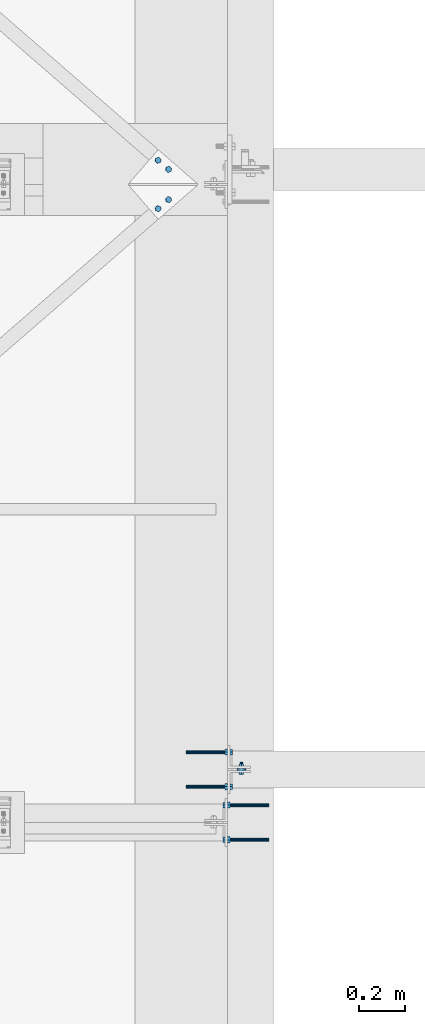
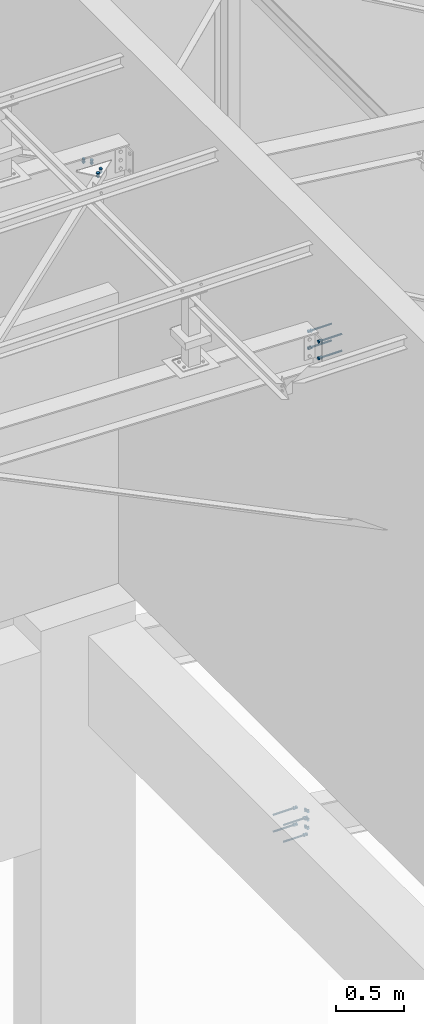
# One storey, part 278 of 3134: 7 mechanical fasteners, 6 elements without a shape of their own.
"""IFC2X3 building model written with IfcOpenShell, lengths in millimetres."""

from ifc_helpers import new_model, si_unit, frame, origin_with_axes, place, context, subcontext, project, spatial, faceted_brep, source, transform, mapped, material, type_object, element, aggregate, save


model = new_model("IFC2X3")

# Units and contexts
model_context = context("Model", 3, precision=1e-05, world=origin_with_axes())
body_context = subcontext(model_context, "Body", "Model", "MODEL_VIEW")
ifc_project = project(units=[si_unit("LENGTHUNIT", "METRE", prefix="MILLI"), si_unit("AREAUNIT", "SQUARE_METRE"), si_unit("VOLUMEUNIT", "CUBIC_METRE"), si_unit("MASSUNIT", "GRAM", prefix="KILO"), si_unit("TIMEUNIT", "SECOND"), si_unit("PLANEANGLEUNIT", "RADIAN"), si_unit("SOLIDANGLEUNIT", "STERADIAN"), si_unit("THERMODYNAMICTEMPERATUREUNIT", "DEGREE_CELSIUS"), si_unit("LUMINOUSINTENSITYUNIT", "LUMEN")], contexts=[model_context])

# Site, building, storey
site_placement = place(None, origin_with_axes())
site = spatial("IfcSite", under=ifc_project, at=site_placement, CompositionType="ELEMENT")
building_placement = place(site_placement, origin_with_axes())
building = spatial("IfcBuilding", under=site, at=building_placement, Name="Undefined", CompositionType="ELEMENT")
storey_placement = place(building_placement, origin_with_axes())
storey = spatial("IfcBuildingStorey", under=building, at=storey_placement, Name="Undefined", CompositionType="ELEMENT", Elevation=0.0)

# Assembly, mechanical fastener
assembly_1_placement = place(storey_placement, origin_with_axes())
assembly_1 = element("IfcElementAssembly", 1, at=assembly_1_placement, inside=storey, AssemblyPlace="NOTDEFINED", PredefinedType="RIGID_FRAME")
ifc_material_1 = material(Name="HILTI-HAS")
mechanical_fastener_type = type_object("IfcMechanicalFastenerType", Name="Bolt assembly")
shared_shape_1 = source(origin_with_axes(), body_context, "Body", "Brep", [
    faceted_brep([(13.856406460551, -20.56, 0.0), (6.92820323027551, -20.56, 12.0), (-6.92820323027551, -20.56, 12.0), (-13.856406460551, -20.56, 1.69692038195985e-15), (-6.92820323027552, -20.56, -12.0), (6.9282032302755, -20.56, -12.0), (6.9282032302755, -10.0, -12.0), (-6.92820323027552, -10.0, -12.0), (-13.856406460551, -10.0, 1.69692038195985e-15), (-6.92820323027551, -10.0, 12.0), (6.92820323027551, -10.0, 12.0), (13.856406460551, -10.0, 0.0), (8.0, -10.0, 0.0), (6.92820323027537, -10.0, 4.00000000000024), (3.99999999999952, -10.0, 6.92820323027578), (-8.29068785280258e-13, -10.0, 8.0), (-4.00000000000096, -10.0, 6.92820323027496), (-6.9282032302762, -10.0, 3.99999999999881), (-8.0, -10.0, -1.65813757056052e-12), (-6.92820323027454, -10.0, -4.00000000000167), (-3.99999999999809, -10.0, -6.92820323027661), (2.47832457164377e-12, -10.0, -8.0), (4.00000000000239, -10.0, -6.92820323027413), (6.92820323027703, -10.0, -3.99999999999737), (6.92820323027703, 180.0, -3.99999999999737), (4.00000000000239, 180.0, -6.92820323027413), (2.47832457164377e-12, 180.0, -8.0), (-3.99999999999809, 180.0, -6.92820323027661), (-6.92820323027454, 180.0, -4.00000000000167), (-8.0, 180.0, -1.65813757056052e-12), (-6.9282032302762, 180.0, 3.99999999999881), (-4.00000000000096, 180.0, 6.92820323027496), (-8.29068785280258e-13, 180.0, 8.0), (3.99999999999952, 180.0, 6.92820323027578), (6.92820323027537, 180.0, 4.00000000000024), (8.0, 180.0, 0.0), (15.3344231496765, 7.105427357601e-15, 0.0), (7.66721157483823, 7.105427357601e-15, 13.28), (-7.66721157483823, 7.105427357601e-15, 13.28), (-15.3344231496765, 7.105427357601e-15, 1.87792522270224e-15), (-7.66721157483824, 7.105427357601e-15, -13.28), (7.66721157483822, 7.105427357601e-15, -13.28), (7.66721157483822, 10.56, -13.28), (-7.66721157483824, 10.56, -13.28), (-15.3344231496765, 10.56, 1.87792522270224e-15), (-7.66721157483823, 10.56, 13.28), (7.66721157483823, 10.56, 13.28), (15.3344231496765, 10.56, 0.0)], [[[0, 1, 2, 3, 4, 5]], [[6, 7, 8, 9, 10, 11]], [[0, 11, 10, 1]], [[1, 10, 9, 2]], [[2, 9, 8, 3]], [[3, 8, 7, 4]], [[4, 7, 6, 5]], [[5, 6, 11, 0]], [[12, 13, 14, 15, 16, 17, 18, 19, 20, 21, 22, 23]], [[24, 25, 26, 27, 28, 29, 30, 31, 32, 33, 34, 35]], [[12, 35, 34, 13]], [[13, 34, 33, 14]], [[14, 33, 32, 15]], [[15, 32, 31, 16]], [[16, 31, 30, 17]], [[17, 30, 29, 18]], [[18, 29, 28, 19]], [[19, 28, 27, 20]], [[20, 27, 26, 21]], [[21, 26, 25, 22]], [[22, 25, 24, 23]], [[23, 24, 35, 12]], [[36, 37, 38, 39, 40, 41]], [[42, 43, 44, 45, 46, 47]], [[36, 47, 46, 37]], [[37, 46, 45, 38]], [[38, 45, 44, 39]], [[39, 44, 43, 40]], [[40, 43, 42, 41]], [[41, 42, 47, 36]]]),
    faceted_brep([(9.0, -10.0, 0.0), (7.79422863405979, -10.0, 4.50000000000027), (4.49999999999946, -10.0, 7.79422863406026), (-9.3270238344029e-13, -10.0, 9.0), (-4.50000000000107, -10.0, 7.79422863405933), (-7.79422863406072, -10.0, 4.49999999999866), (-9.0, -10.0, -1.86540476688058e-12), (-7.79422863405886, -10.0, -4.50000000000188), (-4.49999999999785, -10.0, -7.79422863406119), (2.78811514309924e-12, -10.0, -9.0), (4.50000000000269, -10.0, -7.7942286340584), (7.79422863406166, -10.0, -4.49999999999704), (7.79422863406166, 0.100000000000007, -4.49999999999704), (4.50000000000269, 0.100000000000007, -7.7942286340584), (2.78811514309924e-12, 0.100000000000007, -9.0), (-4.49999999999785, 0.100000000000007, -7.79422863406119), (-7.79422863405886, 0.100000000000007, -4.50000000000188), (-9.0, 0.100000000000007, -1.86540476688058e-12), (-7.79422863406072, 0.100000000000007, 4.49999999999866), (-4.50000000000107, 0.100000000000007, 7.79422863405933), (-9.3270238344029e-13, 0.100000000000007, 9.0), (4.49999999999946, 0.100000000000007, 7.79422863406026), (7.79422863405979, 0.100000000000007, 4.50000000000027), (9.0, 0.100000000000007, 0.0)], [[[0, 1, 2, 3, 4, 5, 6, 7, 8, 9, 10, 11]], [[12, 13, 14, 15, 16, 17, 18, 19, 20, 21, 22, 23]], [[0, 23, 22, 1]], [[1, 22, 21, 2]], [[2, 21, 20, 3]], [[3, 20, 19, 4]], [[4, 19, 18, 5]], [[5, 18, 17, 6]], [[6, 17, 16, 7]], [[7, 16, 15, 8]], [[8, 15, 14, 9]], [[9, 14, 13, 10]], [[10, 13, 12, 11]], [[11, 12, 23, 0]]]),
])
mechanical_fastener_1_placement = place(assembly_1_placement, frame((32724.9999999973, 58374.9999999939, 5696.01703557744), z_axis=(0.0, 1.0, 0.0), x_axis=(0.0, 0.0, -1.0)))
mechanical_fastener_1 = element("IfcMechanicalFastener", 2, at=mechanical_fastener_1_placement, type_object=mechanical_fastener_type, material=ifc_material_1, Name="Bolt assembly", NominalDiameter=16.0, NominalLength=190.0, context=body_context, shape_type="MappedRepresentation", body=[
    mapped(shared_shape_1, transform((0.0, 0.0, 0.0))),
    mapped(shared_shape_1, transform((150.0, 0.0, 0.0))),
])
aggregate(assembly_1, [mechanical_fastener_1])

assembly_2_placement = place(storey_placement, origin_with_axes())
assembly_2 = element("IfcElementAssembly", 3, at=assembly_2_placement, inside=storey, AssemblyPlace="NOTDEFINED", PredefinedType="RIGID_FRAME")
mechanical_fastener_2_placement = place(assembly_2_placement, frame((32724.999999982, 58524.9999999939, 5696.01703557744), z_axis=(0.0, 1.0, 0.0), x_axis=(0.0, 0.0, -1.0)))
mechanical_fastener_2 = element("IfcMechanicalFastener", 4, at=mechanical_fastener_2_placement, type_object=mechanical_fastener_type, material=ifc_material_1, Name="Bolt assembly", NominalDiameter=16.0, NominalLength=190.0, context=body_context, shape_type="MappedRepresentation", body=[
    mapped(shared_shape_1, transform((0.0, 0.0, 0.0))),
    mapped(shared_shape_1, transform((150.0, 0.0, 0.0))),
])
aggregate(assembly_2, [mechanical_fastener_2])

assembly_3_placement = place(storey_placement, origin_with_axes())
assembly_3 = element("IfcElementAssembly", 5, at=assembly_3_placement, inside=storey, AssemblyPlace="NOTDEFINED", PredefinedType="RIGID_FRAME")
mechanical_fastener_3_placement = place(assembly_3_placement, frame((32725.0, 58145.0, 10096.4159140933), z_axis=(0.0, -1.0, 0.0), x_axis=(0.0, 0.0, -1.0)))
mechanical_fastener_3 = element("IfcMechanicalFastener", 6, at=mechanical_fastener_3_placement, type_object=mechanical_fastener_type, material=ifc_material_1, Name="Bolt assembly", NominalDiameter=16.0, NominalLength=190.0, context=body_context, shape_type="MappedRepresentation", body=[
    mapped(shared_shape_1, transform((0.0, 0.0, 0.0))),
    mapped(shared_shape_1, transform((150.0, 0.0, 0.0))),
])
aggregate(assembly_3, [mechanical_fastener_3])

assembly_4_placement = place(storey_placement, origin_with_axes())
assembly_4 = element("IfcElementAssembly", 7, at=assembly_4_placement, inside=storey, AssemblyPlace="NOTDEFINED", PredefinedType="RIGID_FRAME")
mechanical_fastener_4_placement = place(assembly_4_placement, frame((32725.0, 58295.0, 10096.4159140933), z_axis=(0.0, -1.0, 0.0), x_axis=(0.0, 0.0, -1.0)))
mechanical_fastener_4 = element("IfcMechanicalFastener", 8, at=mechanical_fastener_4_placement, type_object=mechanical_fastener_type, material=ifc_material_1, Name="Bolt assembly", NominalDiameter=16.0, NominalLength=190.0, context=body_context, shape_type="MappedRepresentation", body=[
    mapped(shared_shape_1, transform((0.0, 0.0, 0.0))),
    mapped(shared_shape_1, transform((150.0, 0.0, 0.0))),
])
aggregate(assembly_4, [mechanical_fastener_4])

assembly_5_placement = place(storey_placement, origin_with_axes())
assembly_5 = element("IfcElementAssembly", 9, at=assembly_5_placement, inside=storey, Name="IPE330", AssemblyPlace="NOTDEFINED", PredefinedType="RIGID_FRAME")
ifc_material_2 = material(Name="8.8")
shared_shape_2 = source(origin_with_axes(), body_context, "Body", "Brep", [
    faceted_brep([(10.9696551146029, -21.75, 0.0), (5.48482755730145, -21.75, 9.5), (-5.48482755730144, -21.75, 9.5), (-10.9696551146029, -21.75, 1.34339530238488e-15), (-5.48482755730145, -21.75, -9.5), (5.48482755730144, -21.75, -9.50000000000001), (5.48482755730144, -13.75, -9.50000000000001), (-5.48482755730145, -13.75, -9.5), (-10.9696551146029, -13.75, 1.34339530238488e-15), (-5.48482755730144, -13.75, 9.5), (5.48482755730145, -13.75, 9.5), (10.9696551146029, -13.75, 0.0), (6.0, -13.75, 0.0), (5.19615242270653, -13.75, 3.00000000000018), (2.99999999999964, -13.75, 5.19615242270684), (-6.21801588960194e-13, -13.75, 6.0), (-3.00000000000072, -13.75, 5.19615242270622), (-5.19615242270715, -13.75, 2.9999999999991), (-6.0, -13.75, -1.24360317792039e-12), (-5.19615242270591, -13.75, -3.00000000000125), (-2.99999999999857, -13.75, -5.19615242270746), (1.85874342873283e-12, -13.75, -6.0), (3.00000000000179, -13.75, -5.1961524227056), (5.19615242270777, -13.75, -2.99999999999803), (5.19615242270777, 31.25, -2.99999999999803), (3.00000000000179, 31.25, -5.1961524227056), (1.85874342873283e-12, 31.25, -6.0), (-2.99999999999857, 31.25, -5.19615242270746), (-5.19615242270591, 31.25, -3.00000000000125), (-6.0, 31.25, -1.24360317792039e-12), (-5.19615242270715, 31.25, 2.9999999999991), (-3.00000000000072, 31.25, 5.19615242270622), (-6.21801588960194e-13, 31.25, 6.0), (2.99999999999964, 31.25, 5.19615242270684), (5.19615242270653, 31.25, 3.00000000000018), (6.0, 31.25, 0.0), (10.9696551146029, 13.7500000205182, 0.0), (5.48482755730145, 13.7500000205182, 9.5), (-5.48482755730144, 13.7500000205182, 9.5), (-10.9696551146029, 13.7500000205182, 1.34339530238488e-15), (-5.48482755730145, 13.7500000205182, -9.5), (5.48482755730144, 13.7500000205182, -9.50000000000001), (5.48482755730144, 23.7500000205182, -9.50000000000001), (-5.48482755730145, 23.7500000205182, -9.5), (-10.9696551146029, 23.7500000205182, 1.34339530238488e-15), (-5.48482755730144, 23.7500000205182, 9.5), (5.48482755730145, 23.7500000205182, 9.5), (10.9696551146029, 23.7500000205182, 0.0)], [[[0, 1, 2, 3, 4, 5]], [[6, 7, 8, 9, 10, 11]], [[0, 11, 10, 1]], [[1, 10, 9, 2]], [[2, 9, 8, 3]], [[3, 8, 7, 4]], [[4, 7, 6, 5]], [[5, 6, 11, 0]], [[12, 13, 14, 15, 16, 17, 18, 19, 20, 21, 22, 23]], [[24, 25, 26, 27, 28, 29, 30, 31, 32, 33, 34, 35]], [[12, 35, 34, 13]], [[13, 34, 33, 14]], [[14, 33, 32, 15]], [[15, 32, 31, 16]], [[16, 31, 30, 17]], [[17, 30, 29, 18]], [[18, 29, 28, 19]], [[19, 28, 27, 20]], [[20, 27, 26, 21]], [[21, 26, 25, 22]], [[22, 25, 24, 23]], [[23, 24, 35, 12]], [[36, 37, 38, 39, 40, 41]], [[42, 43, 44, 45, 46, 47]], [[36, 47, 46, 37]], [[37, 46, 45, 38]], [[38, 45, 44, 39]], [[39, 44, 43, 40]], [[40, 43, 42, 41]], [[41, 42, 47, 36]]]),
    faceted_brep([(7.0, -13.65, 0.0), (6.06217782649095, -13.65, 3.50000000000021), (3.49999999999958, -13.65, 6.06217782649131), (-7.25435187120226e-13, -13.65, 7.0), (-3.50000000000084, -13.65, 6.06217782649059), (-6.06217782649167, -13.65, 3.49999999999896), (-7.0, -13.65, -1.45087037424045e-12), (-6.06217782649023, -13.65, -3.50000000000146), (-3.49999999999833, -13.65, -6.06217782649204), (2.1685340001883e-12, -13.65, -7.0), (3.50000000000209, -13.65, -6.06217782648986), (6.0621778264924, -13.65, -3.4999999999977), (6.0621778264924, -3.65, -3.4999999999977), (3.50000000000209, -3.65, -6.06217782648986), (2.1685340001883e-12, -3.65, -7.0), (-3.49999999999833, -3.65, -6.06217782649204), (-6.06217782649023, -3.65, -3.50000000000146), (-7.0, -3.65, -1.45087037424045e-12), (-6.06217782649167, -3.65, 3.49999999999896), (-3.50000000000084, -3.65, 6.06217782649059), (-7.25435187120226e-13, -3.65, 7.0), (3.49999999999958, -3.65, 6.06217782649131), (6.06217782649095, -3.65, 3.50000000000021), (7.0, -3.65, 0.0), (7.0, -3.75, 13.0), (6.46715672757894, -3.75, 15.6787840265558), (4.94974746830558, -3.75, 17.9497474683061), (-7.25435187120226e-13, -3.75, 20.0), (-3.50000000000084, -3.75, 19.0621778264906), (-6.06217782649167, -3.75, 16.499999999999), (-7.0, -3.75, 12.9999999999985), (-7.0, -3.75, -13.0000000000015), (-6.06217782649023, -3.75, -16.5000000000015), (-3.49999999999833, -3.75, -19.062177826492), (2.1685340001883e-12, -3.75, -20.0), (3.50000000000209, -3.75, -19.0621778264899), (6.0621778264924, -3.75, -16.4999999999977), (7.0, -3.75, -12.9999999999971), (7.0, 3.75, -12.9999999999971), (6.0621778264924, 3.75, -16.4999999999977), (3.50000000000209, 3.75, -19.0621778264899), (2.1685340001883e-12, 3.75, -20.0), (-3.49999999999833, 3.75, -19.062177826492), (-6.06217782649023, 3.75, -16.5000000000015), (-7.0, 3.75, -13.0000000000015), (-7.0, 3.75, 12.9999999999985), (-6.06217782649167, 3.75, 16.499999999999), (-3.50000000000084, 3.75, 19.0621778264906), (-7.25435187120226e-13, 3.75, 20.0), (2.67878402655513, 3.75, 19.4671567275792), (4.94974746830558, 3.75, 17.9497474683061), (6.46715672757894, 3.75, 15.6787840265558), (7.0, 3.75, 13.0), (2.67878402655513, -3.75, 19.4671567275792), (7.0, 3.65000002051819, 0.0), (6.06217782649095, 3.65000002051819, 3.50000000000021), (3.49999999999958, 3.65000002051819, 6.06217782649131), (-7.25435187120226e-13, 3.65000002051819, 7.0), (-3.50000000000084, 3.65000002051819, 6.06217782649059), (-6.06217782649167, 3.65000002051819, 3.49999999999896), (-7.0, 3.65000002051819, -1.45087037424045e-12), (-6.06217782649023, 3.65000002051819, -3.50000000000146), (-3.49999999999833, 3.65000002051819, -6.06217782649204), (2.1685340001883e-12, 3.65000002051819, -7.0), (3.50000000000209, 3.65000002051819, -6.06217782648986), (6.0621778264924, 3.65000002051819, -3.4999999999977), (6.0621778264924, 13.7500000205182, -3.4999999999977), (3.50000000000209, 13.7500000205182, -6.06217782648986), (2.1685340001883e-12, 13.7500000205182, -7.0), (-3.49999999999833, 13.7500000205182, -6.06217782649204), (-6.06217782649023, 13.7500000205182, -3.50000000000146), (-7.0, 13.7500000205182, -1.45087037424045e-12), (-6.06217782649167, 13.7500000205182, 3.49999999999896), (-3.50000000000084, 13.7500000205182, 6.06217782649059), (-7.25435187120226e-13, 13.7500000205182, 7.0), (3.49999999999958, 13.7500000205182, 6.06217782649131), (6.06217782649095, 13.7500000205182, 3.50000000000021), (7.0, 13.7500000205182, 0.0)], [[[0, 1, 2, 3, 4, 5, 6, 7, 8, 9, 10, 11]], [[12, 13, 14, 15, 16, 17, 18, 19, 20, 21, 22, 23]], [[0, 23, 22, 1]], [[1, 22, 21, 2]], [[2, 21, 20, 3]], [[3, 20, 19, 4]], [[4, 19, 18, 5]], [[5, 18, 17, 6]], [[6, 17, 16, 7]], [[7, 16, 15, 8]], [[8, 15, 14, 9]], [[9, 14, 13, 10]], [[10, 13, 12, 11]], [[11, 12, 23, 0]], [[24, 25, 26, 27, 28, 29, 30, 31, 32, 33, 34, 35, 36, 37]], [[38, 39, 40, 41, 42, 43, 44, 45, 46, 47, 48, 49, 50, 51, 52]], [[24, 52, 51, 25]], [[25, 51, 50, 26]], [[26, 50, 49, 53]], [[53, 49, 48, 27]], [[27, 48, 47, 28]], [[28, 47, 46, 29]], [[29, 46, 45, 30]], [[30, 45, 44, 31]], [[31, 44, 43, 32]], [[32, 43, 42, 33]], [[33, 42, 41, 34]], [[34, 41, 40, 35]], [[35, 40, 39, 36]], [[36, 39, 38, 37]], [[37, 38, 52, 24]], [[54, 55, 56, 57, 58, 59, 60, 61, 62, 63, 64, 65]], [[66, 67, 68, 69, 70, 71, 72, 73, 74, 75, 76, 77]], [[54, 77, 76, 55]], [[55, 76, 75, 56]], [[56, 75, 74, 57]], [[57, 74, 73, 58]], [[58, 73, 72, 59]], [[59, 72, 71, 60]], [[60, 71, 70, 61]], [[61, 70, 69, 62]], [[62, 69, 68, 63]], [[63, 68, 67, 64]], [[64, 67, 66, 65]], [[65, 66, 77, 54]]]),
])
mechanical_fastener_5_placement = place(assembly_5_placement, frame((32785.0, 58450.0, 5696.01703557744), z_axis=(1.0, 0.0, 0.0), x_axis=(0.0, 0.0, -1.0)))
mechanical_fastener_5 = element("IfcMechanicalFastener", 10, at=mechanical_fastener_5_placement, type_object=mechanical_fastener_type, material=ifc_material_2, Name="Bolt assembly", NominalDiameter=12.0, NominalLength=45.0, context=body_context, shape_type="MappedRepresentation", body=[
    mapped(shared_shape_2, transform((0.0, 0.0, 0.0))),
    mapped(shared_shape_2, transform((75.0, 0.0, 0.0))),
    mapped(shared_shape_2, transform((150.0, 0.0, 0.0))),
])
aggregate(assembly_5, [mechanical_fastener_5])

# Assembly, mechanical fasteners
assembly_6_placement = place(storey_placement, origin_with_axes())
assembly_6 = element("IfcElementAssembly", 11, at=assembly_6_placement, inside=storey, Name="IPE330", AssemblyPlace="NOTDEFINED", PredefinedType="RIGID_FRAME")
shared_shape_3 = source(origin_with_axes(), body_context, "Body", "Brep", [
    faceted_brep([(13.856406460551, -14.0, 0.0), (6.92820323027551, -14.0, 12.0), (-6.92820323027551, -14.0, 12.0), (-13.856406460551, -14.0, 1.69692038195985e-15), (-6.92820323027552, -14.0, -12.0), (6.9282032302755, -14.0, -12.0), (6.9282032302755, -4.00000145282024, -12.0), (-6.92820323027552, -4.00000145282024, -12.0), (-13.856406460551, -4.00000145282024, 1.69692038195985e-15), (-6.92820323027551, -4.00000145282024, 12.0), (6.92820323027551, -4.00000145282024, 12.0), (13.856406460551, -4.00000145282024, 0.0), (8.0, -4.00000145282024, 0.0), (6.92820323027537, -4.00000145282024, 4.00000000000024), (3.99999999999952, -4.00000145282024, 6.92820323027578), (-8.29068785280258e-13, -4.00000145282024, 8.0), (-4.00000000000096, -4.00000145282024, 6.92820323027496), (-6.9282032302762, -4.00000145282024, 3.99999999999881), (-8.0, -4.00000145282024, -1.65813757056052e-12), (-6.92820323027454, -4.00000145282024, -4.00000000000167), (-3.99999999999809, -4.00000145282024, -6.92820323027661), (2.47832457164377e-12, -4.00000145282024, -8.0), (4.00000000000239, -4.00000145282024, -6.92820323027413), (6.92820323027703, -4.00000145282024, -3.99999999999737), (6.92820323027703, 31.0, -3.99999999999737), (4.00000000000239, 31.0, -6.92820323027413), (2.47832457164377e-12, 31.0, -8.0), (-3.99999999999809, 31.0, -6.92820323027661), (-6.92820323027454, 31.0, -4.00000000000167), (-8.0, 31.0, -1.65813757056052e-12), (-6.9282032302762, 31.0, 3.99999999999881), (-4.00000000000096, 31.0, 6.92820323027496), (-8.29068785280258e-13, 31.0, 8.0), (3.99999999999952, 31.0, 6.92820323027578), (6.92820323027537, 31.0, 4.00000000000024), (8.0, 31.0, 0.0), (13.856406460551, 9.99999995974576, 0.0), (6.92820323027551, 9.99999995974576, 12.0), (-6.92820323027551, 9.99999995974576, 12.0), (-13.856406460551, 9.99999995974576, 1.69692038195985e-15), (-6.92820323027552, 9.99999995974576, -12.0), (6.9282032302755, 9.99999995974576, -12.0), (6.9282032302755, 22.9999913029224, -12.0), (-6.92820323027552, 22.9999913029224, -12.0), (-13.856406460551, 22.9999913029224, 1.69692038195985e-15), (-6.92820323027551, 22.9999913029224, 12.0), (6.92820323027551, 22.9999913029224, 12.0), (13.856406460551, 22.9999913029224, 0.0)], [[[0, 1, 2, 3, 4, 5]], [[6, 7, 8, 9, 10, 11]], [[0, 11, 10, 1]], [[1, 10, 9, 2]], [[2, 9, 8, 3]], [[3, 8, 7, 4]], [[4, 7, 6, 5]], [[5, 6, 11, 0]], [[12, 13, 14, 15, 16, 17, 18, 19, 20, 21, 22, 23]], [[24, 25, 26, 27, 28, 29, 30, 31, 32, 33, 34, 35]], [[12, 35, 34, 13]], [[13, 34, 33, 14]], [[14, 33, 32, 15]], [[15, 32, 31, 16]], [[16, 31, 30, 17]], [[17, 30, 29, 18]], [[18, 29, 28, 19]], [[19, 28, 27, 20]], [[20, 27, 26, 21]], [[21, 26, 25, 22]], [[22, 25, 24, 23]], [[23, 24, 35, 12]], [[36, 37, 38, 39, 40, 41]], [[42, 43, 44, 45, 46, 47]], [[36, 47, 46, 37]], [[37, 46, 45, 38]], [[38, 45, 44, 39]], [[39, 44, 43, 40]], [[40, 43, 42, 41]], [[41, 42, 47, 36]]]),
    faceted_brep([(9.0, 3.9, 0.0), (7.79422863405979, 3.9, 4.50000000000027), (4.49999999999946, 3.9, 7.79422863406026), (-9.3270238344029e-13, 3.9, 9.0), (-4.50000000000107, 3.9, 7.79422863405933), (-7.79422863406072, 3.9, 4.49999999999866), (-9.0, 3.9, -1.86540476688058e-12), (-7.79422863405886, 3.9, -4.50000000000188), (-4.49999999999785, 3.9, -7.79422863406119), (2.78811514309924e-12, 3.9, -9.0), (4.50000000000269, 3.9, -7.7942286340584), (7.79422863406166, 3.9, -4.49999999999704), (7.79422863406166, 9.99999995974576, -4.49999999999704), (4.50000000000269, 9.99999995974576, -7.7942286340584), (2.78811514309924e-12, 9.99999995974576, -9.0), (-4.49999999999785, 9.99999995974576, -7.79422863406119), (-7.79422863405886, 9.99999995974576, -4.50000000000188), (-9.0, 9.99999995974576, -1.86540476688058e-12), (-7.79422863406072, 9.99999995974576, 4.49999999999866), (-4.50000000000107, 9.99999995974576, 7.79422863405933), (-9.3270238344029e-13, 9.99999995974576, 9.0), (4.49999999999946, 9.99999995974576, 7.79422863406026), (7.79422863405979, 9.99999995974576, 4.50000000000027), (9.0, 9.99999995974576, 0.0), (9.0, -3.9, 0.0), (7.79422863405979, -3.9, 4.50000000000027), (4.49999999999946, -3.9, 7.79422863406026), (-9.3270238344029e-13, -3.9, 9.0), (-4.50000000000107, -3.9, 7.79422863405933), (-7.79422863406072, -3.9, 4.49999999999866), (-9.0, -3.9, -1.86540476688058e-12), (-7.79422863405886, -3.9, -4.50000000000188), (-4.49999999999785, -3.9, -7.79422863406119), (2.78811514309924e-12, -3.9, -9.0), (4.50000000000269, -3.9, -7.7942286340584), (7.79422863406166, -3.9, -4.49999999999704), (7.79422863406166, 4.09999854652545, -4.49999999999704), (4.50000000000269, 4.09999854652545, -7.7942286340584), (2.78811514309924e-12, 4.09999854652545, -9.0), (-4.49999999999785, 4.09999854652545, -7.79422863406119), (-7.79422863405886, 4.09999854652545, -4.50000000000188), (-9.0, 4.09999854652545, -1.86540476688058e-12), (-7.79422863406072, 4.09999854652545, 4.49999999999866), (-4.50000000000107, 4.09999854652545, 7.79422863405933), (-9.3270238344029e-13, 4.09999854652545, 9.0), (4.49999999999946, 4.09999854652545, 7.79422863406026), (7.79422863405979, 4.09999854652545, 4.50000000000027), (9.0, 4.09999854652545, 0.0)], [[[0, 1, 2, 3, 4, 5, 6, 7, 8, 9, 10, 11]], [[12, 13, 14, 15, 16, 17, 18, 19, 20, 21, 22, 23]], [[0, 23, 22, 1]], [[1, 22, 21, 2]], [[2, 21, 20, 3]], [[3, 20, 19, 4]], [[4, 19, 18, 5]], [[5, 18, 17, 6]], [[6, 17, 16, 7]], [[7, 16, 15, 8]], [[8, 15, 14, 9]], [[9, 14, 13, 10]], [[10, 13, 12, 11]], [[11, 12, 23, 0]], [[24, 25, 26, 27, 28, 29, 30, 31, 32, 33, 34, 35]], [[36, 37, 38, 39, 40, 41, 42, 43, 44, 45, 46, 47]], [[24, 47, 46, 25]], [[25, 46, 45, 26]], [[26, 45, 44, 27]], [[27, 44, 43, 28]], [[28, 43, 42, 29]], [[29, 42, 41, 30]], [[30, 41, 40, 31]], [[31, 40, 39, 32]], [[32, 39, 38, 33]], [[33, 38, 37, 34]], [[34, 37, 36, 35]], [[35, 36, 47, 24]]]),
])
mechanical_fastener_6_placement = place(assembly_6_placement, frame((32424.2213762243, 60880.1149029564, 10033.8822758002), z_axis=(-0.655215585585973, 0.755168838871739, 0.0203116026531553), x_axis=(0.754806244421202, 0.655530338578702, -0.0233989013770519)))
mechanical_fastener_6 = element("IfcMechanicalFastener", 12, at=mechanical_fastener_6_placement, type_object=mechanical_fastener_type, material=ifc_material_2, Name="Bolt assembly", NominalDiameter=16.0, NominalLength=35.0, context=body_context, shape_type="MappedRepresentation", body=[
    mapped(shared_shape_3, transform((0.0, 0.0, 0.0))),
    mapped(shared_shape_3, transform((59.9999999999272, 0.0, 5.40239852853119e-10))),
])
shared_shape_4 = source(origin_with_axes(), body_context, "Body", "Brep", [
    faceted_brep([(13.856406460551, -14.0, 0.0), (6.92820323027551, -14.0, 12.0), (-6.92820323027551, -14.0, 12.0), (-13.856406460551, -14.0, 1.69692038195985e-15), (-6.92820323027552, -14.0, -12.0), (6.9282032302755, -14.0, -12.0), (6.9282032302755, -4.00000145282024, -12.0), (-6.92820323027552, -4.00000145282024, -12.0), (-13.856406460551, -4.00000145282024, 1.69692038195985e-15), (-6.92820323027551, -4.00000145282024, 12.0), (6.92820323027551, -4.00000145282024, 12.0), (13.856406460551, -4.00000145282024, 0.0), (8.0, -4.00000145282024, 0.0), (6.92820323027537, -4.00000145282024, 4.00000000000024), (3.99999999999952, -4.00000145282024, 6.92820323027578), (-8.29068785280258e-13, -4.00000145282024, 8.0), (-4.00000000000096, -4.00000145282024, 6.92820323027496), (-6.9282032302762, -4.00000145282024, 3.99999999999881), (-8.0, -4.00000145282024, -1.65813757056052e-12), (-6.92820323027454, -4.00000145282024, -4.00000000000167), (-3.99999999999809, -4.00000145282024, -6.92820323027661), (2.47832457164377e-12, -4.00000145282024, -8.0), (4.00000000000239, -4.00000145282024, -6.92820323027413), (6.92820323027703, -4.00000145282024, -3.99999999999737), (6.92820323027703, 31.0, -3.99999999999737), (4.00000000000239, 31.0, -6.92820323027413), (2.47832457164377e-12, 31.0, -8.0), (-3.99999999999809, 31.0, -6.92820323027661), (-6.92820323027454, 31.0, -4.00000000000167), (-8.0, 31.0, -1.65813757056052e-12), (-6.9282032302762, 31.0, 3.99999999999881), (-4.00000000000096, 31.0, 6.92820323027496), (-8.29068785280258e-13, 31.0, 8.0), (3.99999999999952, 31.0, 6.92820323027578), (6.92820323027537, 31.0, 4.00000000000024), (8.0, 31.0, 0.0), (13.856406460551, 9.99990751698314, 0.0), (6.92820323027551, 9.99990751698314, 12.0), (-6.92820323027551, 9.99990751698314, 12.0), (-13.856406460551, 9.99990751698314, 1.69692038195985e-15), (-6.92820323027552, 9.99990751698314, -12.0), (6.9282032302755, 9.99990751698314, -12.0), (6.9282032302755, 22.9999075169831, -12.0), (-6.92820323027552, 22.9999075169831, -12.0), (-13.856406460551, 22.9999075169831, 1.69692038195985e-15), (-6.92820323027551, 22.9999075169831, 12.0), (6.92820323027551, 22.9999075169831, 12.0), (13.856406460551, 22.9999075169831, 0.0)], [[[0, 1, 2, 3, 4, 5]], [[6, 7, 8, 9, 10, 11]], [[0, 11, 10, 1]], [[1, 10, 9, 2]], [[2, 9, 8, 3]], [[3, 8, 7, 4]], [[4, 7, 6, 5]], [[5, 6, 11, 0]], [[12, 13, 14, 15, 16, 17, 18, 19, 20, 21, 22, 23]], [[24, 25, 26, 27, 28, 29, 30, 31, 32, 33, 34, 35]], [[12, 35, 34, 13]], [[13, 34, 33, 14]], [[14, 33, 32, 15]], [[15, 32, 31, 16]], [[16, 31, 30, 17]], [[17, 30, 29, 18]], [[18, 29, 28, 19]], [[19, 28, 27, 20]], [[20, 27, 26, 21]], [[21, 26, 25, 22]], [[22, 25, 24, 23]], [[23, 24, 35, 12]], [[36, 37, 38, 39, 40, 41]], [[42, 43, 44, 45, 46, 47]], [[36, 47, 46, 37]], [[37, 46, 45, 38]], [[38, 45, 44, 39]], [[39, 44, 43, 40]], [[40, 43, 42, 41]], [[41, 42, 47, 36]]]),
    faceted_brep([(9.0, 3.89990751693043, 0.0), (7.79422863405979, 3.89990751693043, 4.50000000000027), (4.49999999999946, 3.89990751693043, 7.79422863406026), (-9.3270238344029e-13, 3.89990751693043, 9.0), (-4.50000000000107, 3.89990751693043, 7.79422863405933), (-7.79422863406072, 3.89990751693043, 4.49999999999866), (-9.0, 3.89990751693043, -1.86540476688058e-12), (-7.79422863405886, 3.89990751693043, -4.50000000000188), (-4.49999999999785, 3.89990751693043, -7.79422863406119), (2.78811514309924e-12, 3.89990751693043, -9.0), (4.50000000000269, 3.89990751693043, -7.7942286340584), (7.79422863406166, 3.89990751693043, -4.49999999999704), (7.79422863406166, 9.99990751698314, -4.49999999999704), (4.50000000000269, 9.99990751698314, -7.7942286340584), (2.78811514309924e-12, 9.99990751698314, -9.0), (-4.49999999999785, 9.99990751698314, -7.79422863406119), (-7.79422863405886, 9.99990751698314, -4.50000000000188), (-9.0, 9.99990751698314, -1.86540476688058e-12), (-7.79422863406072, 9.99990751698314, 4.49999999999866), (-4.50000000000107, 9.99990751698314, 7.79422863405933), (-9.3270238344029e-13, 9.99990751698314, 9.0), (4.49999999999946, 9.99990751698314, 7.79422863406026), (7.79422863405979, 9.99990751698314, 4.50000000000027), (9.0, 9.99990751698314, 0.0), (9.0, -3.9, 0.0), (7.79422863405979, -3.9, 4.50000000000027), (4.49999999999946, -3.9, 7.79422863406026), (-9.3270238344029e-13, -3.9, 9.0), (-4.50000000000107, -3.9, 7.79422863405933), (-7.79422863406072, -3.9, 4.49999999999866), (-9.0, -3.9, -1.86540476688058e-12), (-7.79422863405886, -3.9, -4.50000000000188), (-4.49999999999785, -3.9, -7.79422863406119), (2.78811514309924e-12, -3.9, -9.0), (4.50000000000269, -3.9, -7.7942286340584), (7.79422863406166, -3.9, -4.49999999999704), (7.79422863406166, 4.09999854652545, -4.49999999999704), (4.50000000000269, 4.09999854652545, -7.7942286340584), (2.78811514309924e-12, 4.09999854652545, -9.0), (-4.49999999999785, 4.09999854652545, -7.79422863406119), (-7.79422863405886, 4.09999854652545, -4.50000000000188), (-9.0, 4.09999854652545, -1.86540476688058e-12), (-7.79422863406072, 4.09999854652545, 4.49999999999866), (-4.50000000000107, 4.09999854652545, 7.79422863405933), (-9.3270238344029e-13, 4.09999854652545, 9.0), (4.49999999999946, 4.09999854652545, 7.79422863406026), (7.79422863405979, 4.09999854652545, 4.50000000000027), (9.0, 4.09999854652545, 0.0)], [[[0, 1, 2, 3, 4, 5, 6, 7, 8, 9, 10, 11]], [[12, 13, 14, 15, 16, 17, 18, 19, 20, 21, 22, 23]], [[0, 23, 22, 1]], [[1, 22, 21, 2]], [[2, 21, 20, 3]], [[3, 20, 19, 4]], [[4, 19, 18, 5]], [[5, 18, 17, 6]], [[6, 17, 16, 7]], [[7, 16, 15, 8]], [[8, 15, 14, 9]], [[9, 14, 13, 10]], [[10, 13, 12, 11]], [[11, 12, 23, 0]], [[24, 25, 26, 27, 28, 29, 30, 31, 32, 33, 34, 35]], [[36, 37, 38, 39, 40, 41, 42, 43, 44, 45, 46, 47]], [[24, 47, 46, 25]], [[25, 46, 45, 26]], [[26, 45, 44, 27]], [[27, 44, 43, 28]], [[28, 43, 42, 29]], [[29, 42, 41, 30]], [[30, 41, 40, 31]], [[31, 40, 39, 32]], [[32, 39, 38, 33]], [[33, 38, 37, 34]], [[34, 37, 36, 35]], [[35, 36, 47, 24]]]),
])
mechanical_fastener_7_placement = place(assembly_6_placement, frame((32424.2213762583, 61089.8850970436, 10033.8822757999), z_axis=(0.655215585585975, 0.755168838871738, -0.0203116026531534), x_axis=(0.754806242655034, -0.65553033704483, -0.0233990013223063)))
mechanical_fastener_7 = element("IfcMechanicalFastener", 13, at=mechanical_fastener_7_placement, type_object=mechanical_fastener_type, material=ifc_material_2, Name="Bolt assembly", NominalDiameter=16.0, NominalLength=35.0, context=body_context, shape_type="MappedRepresentation", body=[
    mapped(shared_shape_4, transform((0.0, 0.0, 0.0))),
    mapped(shared_shape_4, transform((59.9999999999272, 0.0, 5.40239852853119e-10))),
])
aggregate(assembly_6, [mechanical_fastener_7, mechanical_fastener_6])

save(model, "model.ifc")
